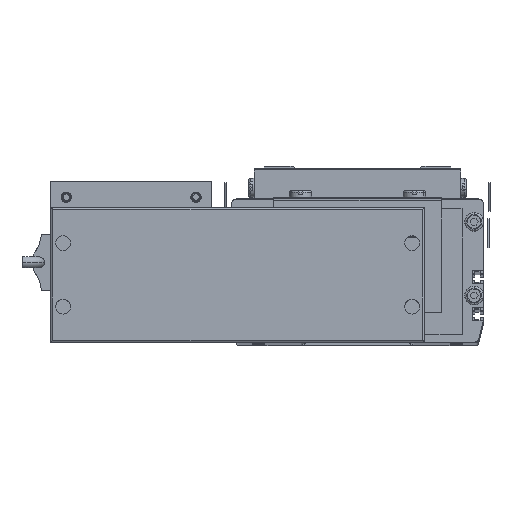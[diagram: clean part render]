
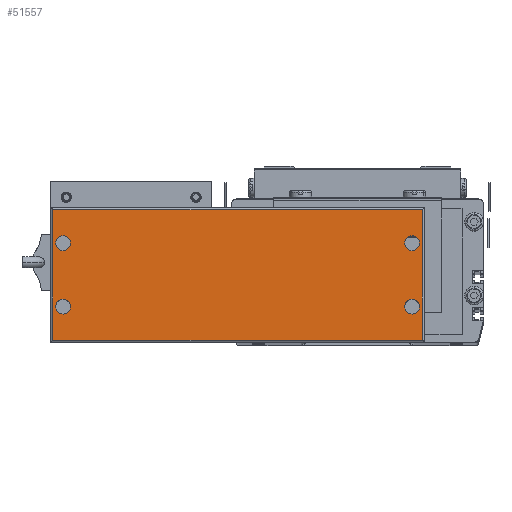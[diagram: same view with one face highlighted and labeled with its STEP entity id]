
A CAD part, top view. The second image highlights one B-rep face of the part: STEP entity #51557.
In plain terms, the highlighted planar face has unit normal (0, 0, 1).
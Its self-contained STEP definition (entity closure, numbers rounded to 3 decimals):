
#25831 = VERTEX_POINT ( 'NONE', #59674 ) ;
#25884 = VERTEX_POINT ( 'NONE', #60160 ) ;
#25888 = EDGE_CURVE ( 'NONE', #26240, #25884, #59689, .T. ) ;
#25912 = VERTEX_POINT ( 'NONE', #59853 ) ;
#26069 = VERTEX_POINT ( 'NONE', #60336 ) ;
#26153 = EDGE_CURVE ( 'NONE', #26814, #25912, #61034, .T. ) ;
#26172 = VERTEX_POINT ( 'NONE', #60931 ) ;
#26222 = VERTEX_POINT ( 'NONE', #60281 ) ;
#26230 = EDGE_CURVE ( 'NONE', #25831, #26222, #61453, .T. ) ;
#26236 = EDGE_CURVE ( 'NONE', #26069, #26172, #61390, .T. ) ;
#26240 = VERTEX_POINT ( 'NONE', #61423 ) ;
#26814 = VERTEX_POINT ( 'NONE', #62642 ) ;
#51323 = ORIENTED_EDGE ( 'NONE', *, *, #51607, .F. ) ;
#51327 = EDGE_CURVE ( 'NONE', #25884, #26240, #94908, .T. ) ;
#51330 = ORIENTED_EDGE ( 'NONE', *, *, #25888, .F. ) ;
#51335 = EDGE_LOOP ( 'NONE', ( #51562, #51560 ) ) ;
#51339 = ORIENTED_EDGE ( 'NONE', *, *, #26153, .F. ) ;
#51340 = EDGE_CURVE ( 'NONE', #51863, #51605, #94671, .T. ) ;
#51341 = EDGE_CURVE ( 'NONE', #51605, #51342, #95220, .T. ) ;
#51342 = VERTEX_POINT ( 'NONE', #95223 ) ;
#51557 = ADVANCED_FACE ( 'NONE', ( #95805, #95574, #95745, #95741, #95708 ), #95571, .T. ) ;
#51560 = ORIENTED_EDGE ( 'NONE', *, *, #26236, .F. ) ;
#51562 = ORIENTED_EDGE ( 'NONE', *, *, #51641, .F. ) ;
#51563 = EDGE_LOOP ( 'NONE', ( #51323, #51608 ) ) ;
#51565 = EDGE_CURVE ( 'NONE', #51342, #51627, #95702, .T. ) ;
#51601 = ORIENTED_EDGE ( 'NONE', *, *, #51340, .T. ) ;
#51602 = EDGE_CURVE ( 'NONE', #25912, #26814, #95510, .T. ) ;
#51605 = VERTEX_POINT ( 'NONE', #95486 ) ;
#51606 = ORIENTED_EDGE ( 'NONE', *, *, #51602, .F. ) ;
#51607 = EDGE_CURVE ( 'NONE', #26222, #25831, #95484, .T. ) ;
#51608 = ORIENTED_EDGE ( 'NONE', *, *, #26230, .F. ) ;
#51622 = EDGE_CURVE ( 'NONE', #51627, #51863, #94773, .T. ) ;
#51624 = ORIENTED_EDGE ( 'NONE', *, *, #51341, .T. ) ;
#51625 = ORIENTED_EDGE ( 'NONE', *, *, #51622, .T. ) ;
#51626 = ORIENTED_EDGE ( 'NONE', *, *, #51565, .T. ) ;
#51627 = VERTEX_POINT ( 'NONE', #95425 ) ;
#51635 = ORIENTED_EDGE ( 'NONE', *, *, #51327, .F. ) ;
#51637 = EDGE_LOOP ( 'NONE', ( #51606, #51339 ) ) ;
#51639 = EDGE_LOOP ( 'NONE', ( #51635, #51330 ) ) ;
#51641 = EDGE_CURVE ( 'NONE', #26172, #26069, #97251, .T. ) ;
#51773 = EDGE_LOOP ( 'NONE', ( #51601, #51624, #51626, #51625 ) ) ;
#51863 = VERTEX_POINT ( 'NONE', #97938 ) ;
#59674 = CARTESIAN_POINT ( 'NONE',  ( 25.25, 19., 44. ) ) ;
#59689 = CIRCLE ( 'NONE', #60214, 4. ) ;
#59830 = DIRECTION ( 'NONE',  ( 1., 0., 0. ) ) ;
#59832 = DIRECTION ( 'NONE',  ( 0., 0., 1. ) ) ;
#59834 = CARTESIAN_POINT ( 'NONE',  ( -157.75, 19., 44. ) ) ;
#59853 = CARTESIAN_POINT ( 'NONE',  ( 33.25, 53., 44. ) ) ;
#60160 = CARTESIAN_POINT ( 'NONE',  ( -153.75, 19., 44. ) ) ;
#60214 = AXIS2_PLACEMENT_3D ( 'NONE', #59834, #59832, #59830 ) ;
#60281 = CARTESIAN_POINT ( 'NONE',  ( 33.25, 19., 44. ) ) ;
#60336 = CARTESIAN_POINT ( 'NONE',  ( -161.75, 53., 44. ) ) ;
#60931 = CARTESIAN_POINT ( 'NONE',  ( -153.75, 53., 44. ) ) ;
#61008 = AXIS2_PLACEMENT_3D ( 'NONE', #61064, #61059, #61058 ) ;
#61034 = CIRCLE ( 'NONE', #61008, 4. ) ;
#61058 = DIRECTION ( 'NONE',  ( 1., 0., 0. ) ) ;
#61059 = DIRECTION ( 'NONE',  ( 0., 0., 1. ) ) ;
#61064 = CARTESIAN_POINT ( 'NONE',  ( 29.25, 53., 44. ) ) ;
#61107 = CARTESIAN_POINT ( 'NONE',  ( 29.25, 19., 44. ) ) ;
#61160 = DIRECTION ( 'NONE',  ( 0., 0., 1. ) ) ;
#61194 = AXIS2_PLACEMENT_3D ( 'NONE', #61307, #61249, #61196 ) ;
#61196 = DIRECTION ( 'NONE',  ( 1., 0., 0. ) ) ;
#61198 = AXIS2_PLACEMENT_3D ( 'NONE', #61107, #61160, #61461 ) ;
#61249 = DIRECTION ( 'NONE',  ( 0., 0., 1. ) ) ;
#61307 = CARTESIAN_POINT ( 'NONE',  ( -157.75, 53., 44. ) ) ;
#61390 = CIRCLE ( 'NONE', #61194, 4. ) ;
#61423 = CARTESIAN_POINT ( 'NONE',  ( -161.75, 19., 44. ) ) ;
#61453 = CIRCLE ( 'NONE', #61198, 4. ) ;
#61461 = DIRECTION ( 'NONE',  ( 1., 0., 0. ) ) ;
#62642 = CARTESIAN_POINT ( 'NONE',  ( 25.25, 53., 44. ) ) ;
#94669 = CARTESIAN_POINT ( 'NONE',  ( 35.75, 1., 44. ) ) ;
#94671 = LINE ( 'NONE', #94669, #95218 ) ;
#94672 = DIRECTION ( 'NONE',  ( 1., 0., 0. ) ) ;
#94674 = DIRECTION ( 'NONE',  ( 0., 0., 1. ) ) ;
#94676 = CARTESIAN_POINT ( 'NONE',  ( -157.75, 19., 44. ) ) ;
#94678 = AXIS2_PLACEMENT_3D ( 'NONE', #94676, #94674, #94672 ) ;
#94773 = LINE ( 'NONE', #94957, #94966 ) ;
#94908 = CIRCLE ( 'NONE', #94678, 4. ) ;
#94954 = DIRECTION ( 'NONE',  ( 0., -1., 0. ) ) ;
#94957 = CARTESIAN_POINT ( 'NONE',  ( -163.25, 0., 44. ) ) ;
#94966 = VECTOR ( 'NONE', #94954, 1000. ) ;
#95216 = DIRECTION ( 'NONE',  ( 1., 0., 0. ) ) ;
#95218 = VECTOR ( 'NONE', #95216, 1000. ) ;
#95220 = LINE ( 'NONE', #95242, #95241 ) ;
#95223 = CARTESIAN_POINT ( 'NONE',  ( 34.75, 71., 44. ) ) ;
#95239 = DIRECTION ( 'NONE',  ( 0., 1., 0. ) ) ;
#95241 = VECTOR ( 'NONE', #95239, 1000. ) ;
#95242 = CARTESIAN_POINT ( 'NONE',  ( 34.75, 72., 44. ) ) ;
#95425 = CARTESIAN_POINT ( 'NONE',  ( -163.25, 71., 44. ) ) ;
#95440 = DIRECTION ( 'NONE',  ( 1., 0., 0. ) ) ;
#95443 = DIRECTION ( 'NONE',  ( 0., 0., 1. ) ) ;
#95445 = CARTESIAN_POINT ( 'NONE',  ( 29.25, 19., 44. ) ) ;
#95479 = DIRECTION ( 'NONE',  ( 1., 0., 0. ) ) ;
#95481 = DIRECTION ( 'NONE',  ( 0., 0., 1. ) ) ;
#95482 = CARTESIAN_POINT ( 'NONE',  ( 29.25, 53., 44. ) ) ;
#95484 = CIRCLE ( 'NONE', #95488, 4. ) ;
#95486 = CARTESIAN_POINT ( 'NONE',  ( 34.75, 1., 44. ) ) ;
#95488 = AXIS2_PLACEMENT_3D ( 'NONE', #95445, #95443, #95440 ) ;
#95499 = AXIS2_PLACEMENT_3D ( 'NONE', #95482, #95481, #95479 ) ;
#95510 = CIRCLE ( 'NONE', #95499, 4. ) ;
#95571 = PLANE ( 'NONE',  #95818 ) ;
#95574 = FACE_BOUND ( 'NONE', #51639, .T. ) ;
#95585 = VECTOR ( 'NONE', #95662, 1000. ) ;
#95662 = DIRECTION ( 'NONE',  ( -1., 0., 0. ) ) ;
#95688 = DIRECTION ( 'NONE',  ( 1., 0., 0. ) ) ;
#95690 = DIRECTION ( 'NONE',  ( 0., 0., 1. ) ) ;
#95691 = CARTESIAN_POINT ( 'NONE',  ( -164.25, 0., 44. ) ) ;
#95694 = CARTESIAN_POINT ( 'NONE',  ( -164.25, 71., 44. ) ) ;
#95702 = LINE ( 'NONE', #95694, #95585 ) ;
#95708 = FACE_OUTER_BOUND ( 'NONE', #51773, .T. ) ;
#95741 = FACE_BOUND ( 'NONE', #51637, .T. ) ;
#95745 = FACE_BOUND ( 'NONE', #51563, .T. ) ;
#95805 = FACE_BOUND ( 'NONE', #51335, .T. ) ;
#95818 = AXIS2_PLACEMENT_3D ( 'NONE', #95691, #95690, #95688 ) ;
#96893 = CARTESIAN_POINT ( 'NONE',  ( -157.75, 53., 44. ) ) ;
#96988 = AXIS2_PLACEMENT_3D ( 'NONE', #96893, #97407, #97404 ) ;
#97251 = CIRCLE ( 'NONE', #96988, 4. ) ;
#97404 = DIRECTION ( 'NONE',  ( 1., 0., 0. ) ) ;
#97407 = DIRECTION ( 'NONE',  ( 0., 0., 1. ) ) ;
#97938 = CARTESIAN_POINT ( 'NONE',  ( -163.25, 1., 44. ) ) ;
